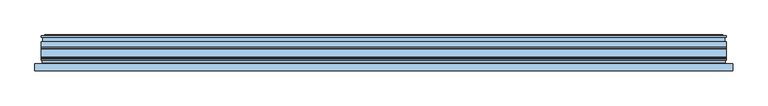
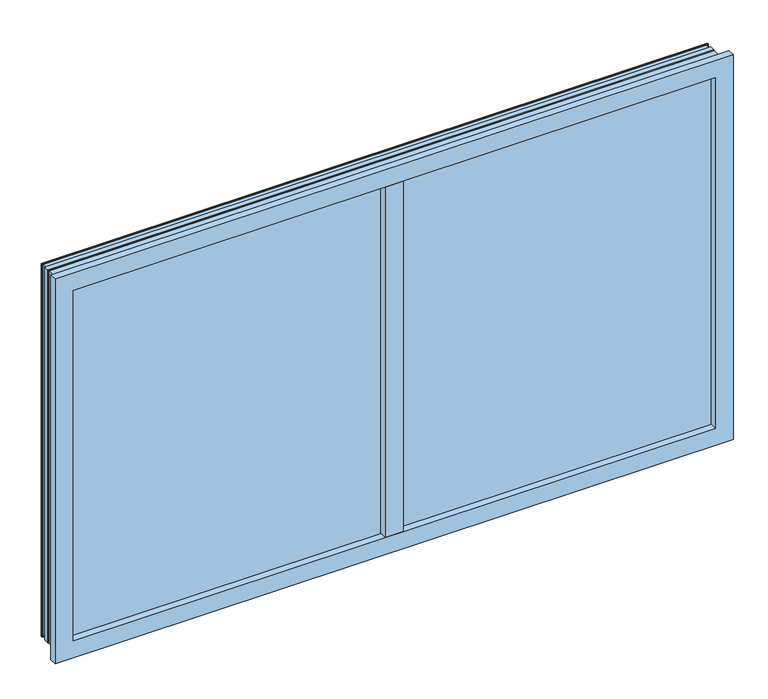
"""IFC4 building model written with IfcOpenShell, lengths in millimetres: window geometry, Comfort+_CVI-2_Metaglas : KozijnMerk."""

from ifc_helpers import new_model, si_unit, frame, origin, place, context, project, spatial, polyline, outline, extrude, faceted_brep, source, transform, mapped, element, save


def window_78f67e3e(model_context):
    return source(origin(), model_context, "Body", "SolidModel", [
        extrude(outline(polyline([(961.0, -26.0), (13.0, -26.0), (13.0, -20.0), (961.0, -20.0), (961.0, -26.0)])), frame((0.0, 0.0, 836.0), z_axis=(0.0, 0.0, 1.0), x_axis=(1.0, 0.0, 0.0)), (0.0, 0.0, 1.0), 1128.0),
        extrude(outline(polyline([(961.0, -5.0), (13.0, -5.0), (13.0, -0.5), (961.0, -0.5), (961.0, -5.0)])), frame((0.0, 0.0, 836.0), z_axis=(0.0, 0.0, 1.0), x_axis=(1.0, 0.0, 0.0)), (0.0, 0.0, 1.0), 1128.0),
        extrude(outline(polyline([(961.0, 14.5), (13.0, 14.5), (13.0, 20.5), (961.0, 20.5), (961.0, 14.5)])), frame((0.0, 0.0, 836.0), z_axis=(0.0, 0.0, 1.0), x_axis=(1.0, 0.0, 0.0)), (0.0, 0.0, 1.0), 1128.0),
        extrude(outline(polyline([(1964.0, 961.0), (1964.0, 13.0), (836.0, 13.0), (836.0, 961.0), (1964.0, 961.0)]), holes=[polyline([(848.0, 949.0), (848.0, 25.0), (1952.0, 25.0), (1952.0, 949.0), (848.0, 949.0)])]), frame((0.0, -20.0, 0.0), z_axis=(0.0, 1.0, 0.0), x_axis=(0.0, 0.0, 1.0)), (0.0, 0.0, 1.0), 15.0),
        extrude(outline(polyline([(1964.0, 961.0), (1964.0, 13.0), (836.0, 13.0), (836.0, 961.0), (1964.0, 961.0)]), holes=[polyline([(848.0, 949.0), (848.0, 25.0), (1952.0, 25.0), (1952.0, 949.0), (848.0, 949.0)])]), frame((0.0, -0.5, 0.0), z_axis=(0.0, 1.0, 0.0), x_axis=(0.0, 0.0, 1.0)), (0.0, 0.0, 1.0), 15.0),
        extrude(outline(polyline([(-13.0, -26.0), (-961.0, -26.0), (-961.0, -20.0), (-13.0, -20.0), (-13.0, -26.0)])), frame((0.0, 0.0, 836.0), z_axis=(0.0, 0.0, 1.0), x_axis=(1.0, 0.0, 0.0)), (0.0, 0.0, 1.0), 1128.0),
        extrude(outline(polyline([(-13.0, -5.0), (-961.0, -5.0), (-961.0, -0.5), (-13.0, -0.5), (-13.0, -5.0)])), frame((0.0, 0.0, 836.0), z_axis=(0.0, 0.0, 1.0), x_axis=(1.0, 0.0, 0.0)), (0.0, 0.0, 1.0), 1128.0),
        extrude(outline(polyline([(-13.0, 14.5), (-961.0, 14.5), (-961.0, 20.5), (-13.0, 20.5), (-13.0, 14.5)])), frame((0.0, 0.0, 836.0), z_axis=(0.0, 0.0, 1.0), x_axis=(1.0, 0.0, 0.0)), (0.0, 0.0, 1.0), 1128.0),
        extrude(outline(polyline([(1964.0, -13.0), (1964.0, -961.0), (836.0, -961.0), (836.0, -13.0), (1964.0, -13.0)]), holes=[polyline([(848.0, -25.0), (848.0, -949.0), (1952.0, -949.0), (1952.0, -25.0), (848.0, -25.0)])]), frame((0.0, -20.0, 0.0), z_axis=(0.0, 1.0, 0.0), x_axis=(0.0, 0.0, 1.0)), (0.0, 0.0, 1.0), 15.0),
        extrude(outline(polyline([(1964.0, -13.0), (1964.0, -961.0), (836.0, -961.0), (836.0, -13.0), (1964.0, -13.0)]), holes=[polyline([(848.0, -25.0), (848.0, -949.0), (1952.0, -949.0), (1952.0, -25.0), (848.0, -25.0)])]), frame((0.0, -0.5, 0.0), z_axis=(0.0, 1.0, 0.0), x_axis=(0.0, 0.0, 1.0)), (0.0, 0.0, 1.0), 15.0),
        faceted_brep([(-1000.0, -29.0, 2000.0), (-1000.0, -29.0, 800.0), (-1000.0, -50.0, 800.0), (-1000.0, -50.0, 2000.0), (1000.0, -50.0, 800.0), (1000.0, -50.0, 2000.0), (-947.0, -50.0, 853.0), (-947.0, -50.0, 1947.0), (947.0, -50.0, 1947.0), (947.0, -50.0, 853.0), (1000.0, -29.0, 800.0), (1000.0, -29.0, 2000.0), (-992.8725928, -29.0, 1992.8725928), (-992.8725928, -29.0, 807.1274072), (992.8725928, -29.0, 807.1274072), (992.8725928, -29.0, 1992.8725928), (-992.8725928, -32.3751885, 1992.8725928), (-992.8725928, -32.3751885, 807.1274072), (992.8725928, -32.3751885, 807.1274072), (992.8725928, -32.3751885, 1992.8725928), (-989.0089631, -32.3751885, 1989.0089631), (-989.0089631, -32.3751885, 810.9910369), (989.0089631, -32.3751885, 810.9910369), (989.0089631, -32.3751885, 1989.0089631), (-989.0089631, -29.0, 1989.0089631), (-989.0089631, -29.0, 810.9910369), (989.0089631, -29.0, 810.9910369), (989.0089631, -29.0, 1989.0089631), (-982.0, -29.0, 1982.0), (-982.0, -29.0, 818.0), (982.0, -29.0, 818.0), (982.0, -29.0, 1982.0), (-978.7291119, -27.9608904, 1978.7291119), (-978.7291119, -27.9608904, 821.2708881), (978.7291119, -27.9608904, 821.2708881), (-978.7291119, -19.1940428, 1978.7291119), (-978.7291119, -19.1940428, 821.2708881), (978.7291119, -19.1940428, 821.2708881), (-981.9999978, -19.1940428, 1981.9999978), (-981.9999978, -19.1940428, 818.0000022), (981.9999978, -19.1940428, 818.0000022), (981.9999978, -19.1940428, 1981.9999978), (978.7291119, -19.1940428, 1978.7291119), (-981.9999978, -16.7500005, 1981.9999978), (-981.9999978, -16.7500005, 818.0000022), (981.9999978, -16.7500005, 818.0000022), (-981.373404, -14.4793407, 1981.373404), (-981.373404, -14.4793407, 818.626596), (981.373404, -14.4793407, 818.626596), (-981.1951446, -11.4659389, 1981.1951446), (-981.1951446, -11.4659389, 818.8048554), (981.1951446, -11.4659389, 818.8048554), (-981.1951446, 12.4143973, 1981.1951446), (-981.1951446, 12.4143973, 818.8048554), (981.1951446, 12.4143973, 818.8048554), (-981.3787921, 13.9100865, 1981.3787921), (-981.3787921, 13.9100865, 818.6212079), (981.3787921, 13.9100865, 818.6212079), (-982.0, 17.75, 1982.0), (-982.0, 17.75, 818.0), (982.0, 17.75, 818.0), (-982.0, 33.0, 1982.0), (-982.0, 33.0, 818.0), (982.0, 33.0, 818.0), (982.0, 33.0, 1982.0), (-980.5, 33.0, 1980.5), (-980.5, 33.0, 819.5), (980.5, 33.0, 819.5), (980.5, 33.0, 1980.5), (-980.5, 31.0, 1980.5), (-980.5, 31.0, 819.5), (980.5, 31.0, 819.5), (980.5, 31.0, 1980.5), (-977.5, 31.0, 1977.5), (-977.5, 31.0, 822.5), (977.5, 31.0, 822.5), (977.5, 31.0, 1977.5), (-977.5, 49.0, 1977.5), (-977.5, 49.0, 822.5), (977.5, 49.0, 822.5), (-980.5, 49.0, 1980.5), (-980.5, 49.0, 819.5), (980.5, 49.0, 819.5), (980.5, 49.0, 1980.5), (977.5, 49.0, 1977.5), (-980.5, 47.0, 1980.5), (-980.5, 47.0, 819.5), (980.5, 47.0, 819.5), (-982.0, 47.0, 1982.0), (-982.0, 47.0, 818.0), (982.0, 47.0, 818.0), (982.0, 47.0, 1982.0), (980.5, 47.0, 1980.5), (-982.0, 51.0, 1982.0), (-982.0, 51.0, 818.0), (982.0, 51.0, 818.0), (982.0, 51.0, 1982.0), (-971.1687709, 51.0, 1971.1687709), (-971.1687709, 51.0, 828.8312291), (971.1687709, 51.0, 828.8312291), (971.1687709, 51.0, 1971.1687709), (-971.1687709, 53.0, 1971.1687709), (-971.1687709, 53.0, 828.8312291), (971.1687709, 53.0, 828.8312291), (971.1687709, 53.0, 1971.1687709), (-947.0, 53.0, 1947.0), (-947.0, 53.0, 853.0), (947.0, 53.0, 853.0), (947.0, 53.0, 1947.0), (-947.0, 31.9, 1947.0), (-947.0, 31.9, 853.0), (947.0, 31.9, 853.0), (-950.6430941, 31.9, 1950.6430941), (-950.6430941, 31.9, 849.3569059), (950.6430941, 31.9, 849.3569059), (950.6430941, 31.9, 1950.6430941), (947.0, 31.9, 1947.0), (-950.6430941, 38.7, 1950.6430941), (-950.6430941, 38.7, 849.3569059), (950.6430941, 38.7, 849.3569059), (-954.4569059, 38.7, 1954.4569059), (-954.4569059, 38.7, 845.5430941), (954.4569059, 38.7, 845.5430941), (954.4569059, 38.7, 1954.4569059), (950.6430941, 38.7, 1950.6430941), (-954.4569059, 31.9, 1954.4569059), (-954.4569059, 31.9, 845.5430941), (954.4569059, 31.9, 845.5430941), (-965.0, 31.9, 1965.0), (-965.0, 31.9, 835.0), (965.0, 31.9, 835.0), (965.0, 31.9, 1965.0), (954.4569059, 31.9, 1954.4569059), (-965.0, 17.75, 1965.0), (-965.0, 17.75, 835.0), (965.0, 17.75, 835.0), (-965.6212079, 13.9100865, 1965.6212079), (-965.6212079, 13.9100865, 834.3787921), (965.6212079, 13.9100865, 834.3787921), (-965.8048554, 12.4143973, 1965.8048554), (-965.8048554, 12.4143973, 834.1951446), (965.8048554, 12.4143973, 834.1951446), (-965.8048554, -11.4659389, 1965.8048554), (-965.8048554, -11.4659389, 834.1951446), (965.8048554, -11.4659389, 834.1951446), (-965.626596, -14.4793407, 1965.626596), (-965.626596, -14.4793407, 834.373404), (965.626596, -14.4793407, 834.373404), (-965.0000022, -16.7500005, 1965.0000022), (-965.0000022, -16.7500005, 834.9999978), (965.0000022, -16.7500005, 834.9999978), (-965.0000022, -19.1940428, 1965.0000022), (-965.0000022, -19.1940428, 834.9999978), (965.0000022, -19.1940428, 834.9999978), (-968.2708881, -19.1940428, 1968.2708881), (-968.2708881, -19.1940428, 831.7291119), (968.2708881, -19.1940428, 831.7291119), (968.2708881, -19.1940428, 1968.2708881), (965.0000022, -19.1940428, 1965.0000022), (-968.2708881, -27.9608904, 1968.2708881), (-968.2708881, -27.9608904, 831.7291119), (968.2708881, -27.9608904, 831.7291119), (-965.0, -29.0, 1965.0), (-965.0, -29.0, 835.0), (965.0, -29.0, 835.0), (965.0, -29.0, 1965.0), (-957.9910369, -29.0, 1957.9910369), (-957.9910369, -29.0, 842.0089631), (957.9910369, -29.0, 842.0089631), (957.9910369, -29.0, 1957.9910369), (-957.9910369, -32.3751885, 1957.9910369), (-957.9910369, -32.3751885, 842.0089631), (957.9910369, -32.3751885, 842.0089631), (957.9910369, -32.3751885, 1957.9910369), (-954.1274072, -32.3751885, 1954.1274072), (-954.1274072, -32.3751885, 845.8725928), (954.1274072, -32.3751885, 845.8725928), (954.1274072, -32.3751885, 1954.1274072), (-954.1274072, -29.0, 1954.1274072), (-954.1274072, -29.0, 845.8725928), (954.1274072, -29.0, 845.8725928), (954.1274072, -29.0, 1954.1274072), (-947.0, -29.0, 1947.0), (-947.0, -29.0, 853.0), (947.0, -29.0, 853.0), (947.0, -29.0, 1947.0), (978.7291119, -27.9608904, 1978.7291119), (981.9999978, -16.7500005, 1981.9999978), (981.373404, -14.4793407, 1981.373404), (981.1951446, -11.4659389, 1981.1951446), (981.1951446, 12.4143973, 1981.1951446), (981.3787921, 13.9100865, 1981.3787921), (982.0, 17.75, 1982.0), (965.0, 17.75, 1965.0), (965.6212079, 13.9100865, 1965.6212079), (965.8048554, 12.4143973, 1965.8048554), (965.8048554, -11.4659389, 1965.8048554), (965.626596, -14.4793407, 1965.626596), (965.0000022, -16.7500005, 1965.0000022), (968.2708881, -27.9608904, 1968.2708881)], [[[0, 1, 2, 3]], [[3, 2, 4, 5], [6, 7, 8, 9]], [[1, 10, 4, 2]], [[1, 0, 11, 10], [12, 13, 14, 15]], [[16, 17, 13, 12]], [[17, 18, 14, 13]], [[17, 16, 19, 18], [20, 21, 22, 23]], [[24, 25, 21, 20]], [[25, 26, 22, 21]], [[25, 24, 27, 26], [28, 29, 30, 31]], [[32, 33, 29, 28]], [[33, 34, 30, 29]], [[35, 36, 33, 32]], [[36, 37, 34, 33]], [[38, 39, 40, 41], [36, 35, 42, 37]], [[43, 44, 39, 38]], [[44, 45, 40, 39]], [[46, 47, 44, 43]], [[47, 48, 45, 44]], [[49, 50, 47, 46]], [[50, 51, 48, 47]], [[52, 53, 50, 49]], [[53, 54, 51, 50]], [[55, 56, 53, 52]], [[56, 57, 54, 53]], [[58, 59, 56, 55]], [[59, 60, 57, 56]], [[61, 62, 59, 58]], [[62, 63, 60, 59]], [[62, 61, 64, 63], [65, 66, 67, 68]], [[69, 70, 66, 65]], [[70, 71, 67, 66]], [[70, 69, 72, 71], [73, 74, 75, 76]], [[77, 78, 74, 73]], [[78, 79, 75, 74]], [[80, 81, 82, 83], [78, 77, 84, 79]], [[85, 86, 81, 80]], [[86, 87, 82, 81]], [[88, 89, 90, 91], [86, 85, 92, 87]], [[93, 94, 89, 88]], [[94, 95, 90, 89]], [[94, 93, 96, 95], [97, 98, 99, 100]], [[101, 102, 98, 97]], [[102, 103, 99, 98]], [[102, 101, 104, 103], [105, 106, 107, 108]], [[109, 110, 106, 105]], [[110, 111, 107, 106]], [[112, 113, 114, 115], [110, 109, 116, 111]], [[117, 118, 113, 112]], [[118, 119, 114, 113]], [[120, 121, 122, 123], [118, 117, 124, 119]], [[125, 126, 121, 120]], [[126, 127, 122, 121]], [[128, 129, 130, 131], [126, 125, 132, 127]], [[133, 134, 129, 128]], [[134, 135, 130, 129]], [[136, 137, 134, 133]], [[137, 138, 135, 134]], [[139, 140, 137, 136]], [[140, 141, 138, 137]], [[142, 143, 140, 139]], [[143, 144, 141, 140]], [[145, 146, 143, 142]], [[146, 147, 144, 143]], [[148, 149, 146, 145]], [[149, 150, 147, 146]], [[151, 152, 149, 148]], [[152, 153, 150, 149]], [[154, 155, 156, 157], [152, 151, 158, 153]], [[159, 160, 155, 154]], [[160, 161, 156, 155]], [[162, 163, 160, 159]], [[163, 164, 161, 160]], [[163, 162, 165, 164], [166, 167, 168, 169]], [[170, 171, 167, 166]], [[171, 172, 168, 167]], [[171, 170, 173, 172], [174, 175, 176, 177]], [[178, 179, 175, 174]], [[179, 180, 176, 175]], [[179, 178, 181, 180], [182, 183, 184, 185]], [[7, 6, 183, 182]], [[6, 9, 184, 183]], [[10, 11, 5, 4]], [[18, 19, 15, 14]], [[26, 27, 23, 22]], [[34, 186, 31, 30]], [[37, 42, 186, 34]], [[45, 187, 41, 40]], [[48, 188, 187, 45]], [[51, 189, 188, 48]], [[54, 190, 189, 51]], [[57, 191, 190, 54]], [[60, 192, 191, 57]], [[63, 64, 192, 60]], [[71, 72, 68, 67]], [[79, 84, 76, 75]], [[87, 92, 83, 82]], [[95, 96, 91, 90]], [[103, 104, 100, 99]], [[111, 116, 108, 107]], [[119, 124, 115, 114]], [[127, 132, 123, 122]], [[135, 193, 131, 130]], [[138, 194, 193, 135]], [[141, 195, 194, 138]], [[144, 196, 195, 141]], [[147, 197, 196, 144]], [[150, 198, 197, 147]], [[153, 158, 198, 150]], [[161, 199, 157, 156]], [[164, 165, 199, 161]], [[172, 173, 169, 168]], [[180, 181, 177, 176]], [[9, 8, 185, 184]], [[11, 0, 3, 5]], [[19, 16, 12, 15]], [[27, 24, 20, 23]], [[186, 32, 28, 31]], [[42, 35, 32, 186]], [[187, 43, 38, 41]], [[188, 46, 43, 187]], [[189, 49, 46, 188]], [[190, 52, 49, 189]], [[191, 55, 52, 190]], [[192, 58, 55, 191]], [[64, 61, 58, 192]], [[72, 69, 65, 68]], [[84, 77, 73, 76]], [[92, 85, 80, 83]], [[96, 93, 88, 91]], [[104, 101, 97, 100]], [[116, 109, 105, 108]], [[124, 117, 112, 115]], [[132, 125, 120, 123]], [[193, 133, 128, 131]], [[194, 136, 133, 193]], [[195, 139, 136, 194]], [[196, 142, 139, 195]], [[197, 145, 142, 196]], [[198, 148, 145, 197]], [[158, 151, 148, 198]], [[199, 159, 154, 157]], [[165, 162, 159, 199]], [[173, 170, 166, 169]], [[181, 178, 174, 177]], [[8, 7, 182, 185]]]),
        extrude(outline(polyline([(-26.5, 53.0), (26.5, 53.0), (26.5, 32.0), (19.3725928, 32.0), (19.3725928, 35.3751885), (15.5089631, 35.3751885), (15.5089631, 32.0), (8.5, 32.0), (5.2291119, 30.9608904), (5.2291119, 22.1940428), (8.4999978, 22.1940428), (8.4999978, 19.7500005), (7.873404, 17.4793407), (7.6951446, 14.4659389), (7.6951446, -9.4143973), (7.8787921, -10.9100865), (8.5, -14.75), (8.5, -28.9), (19.0430941, -28.9), (19.0430941, -35.7), (22.8569059, -35.7), (22.8569059, -28.9), (26.5, -28.9), (26.5, -50.0), (-26.5, -50.0), (-26.5, -28.9), (-22.8569059, -28.9), (-22.8569059, -35.7), (-19.0430941, -35.7), (-19.0430941, -28.9), (-8.5, -28.9), (-8.5, -14.75), (-7.8787921, -10.9100865), (-7.6951446, -9.4143973), (-7.6951446, 14.4659389), (-7.873404, 17.4793407), (-8.4999978, 19.7500005), (-8.4999978, 22.1940428), (-5.2291119, 22.1940428), (-5.2291119, 30.9608904), (-8.5, 32.0), (-15.5089631, 32.0), (-15.5089631, 35.3751885), (-19.3725928, 35.3751885), (-19.3725928, 32.0), (-26.5, 32.0), (-26.5, 53.0)])), frame((0.0, 0.0, 853.0), z_axis=(0.0, 0.0, 1.0), x_axis=(1.0, 0.0, 0.0)), (0.0, 0.0, 1.0), 1094.0),
    ])


if __name__ == "__main__":
    model = new_model("IFC4")
    model_context = context("Model", 3, world=origin())
    ifc_project = project(units=[si_unit("LENGTHUNIT", "METRE", prefix="MILLI")], contexts=[model_context])
    site = spatial("IfcSite", under=ifc_project)
    building = spatial("IfcBuilding", under=site)
    placement = place(None, origin())
    window_shape = window_78f67e3e(model_context)
    element("IfcWindow", 1, ObjectType="Comfort+_CVI-2_Metaglas : KozijnMerk", at=placement, inside=building, context=model_context, shape_type="MappedRepresentation", body=[
        mapped(window_shape, transform((0.0, 0.0, 0.0), x_axis=(1.0, 0.0, 0.0), y_axis=(0.0, 1.0, 0.0), z_axis=(0.0, 0.0, 1.0))),
    ])
    save(model, "model.ifc")
